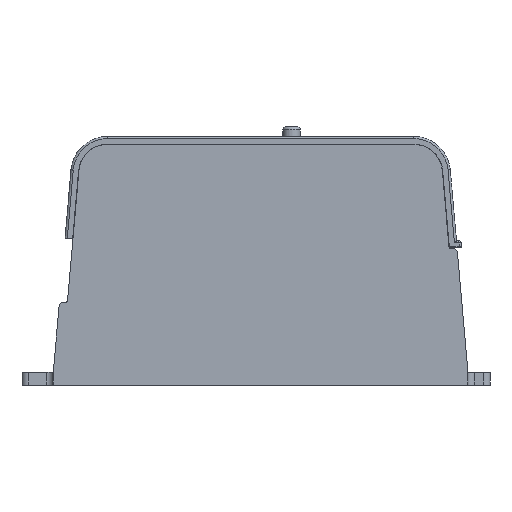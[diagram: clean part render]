
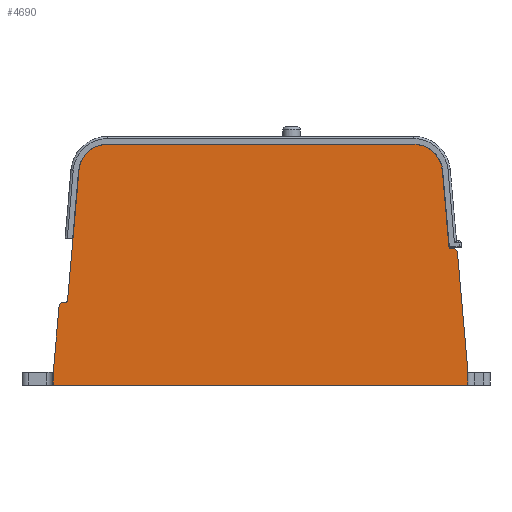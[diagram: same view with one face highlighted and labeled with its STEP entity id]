
A CAD part, front view. The second image highlights one B-rep face of the part: STEP entity #4690.
In plain terms, the highlighted planar face has unit normal (0, -1, 0).
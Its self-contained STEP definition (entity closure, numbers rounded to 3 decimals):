
#116=LINE('',#7055,#578);
#138=LINE('',#7140,#600);
#139=LINE('',#7145,#601);
#140=LINE('',#7149,#602);
#141=LINE('',#7153,#603);
#142=LINE('',#7157,#604);
#143=LINE('',#7161,#605);
#144=LINE('',#7165,#606);
#145=LINE('',#7167,#607);
#146=LINE('',#7168,#608);
#578=VECTOR('',#5621,1000.);
#600=VECTOR('',#5687,1000.);
#601=VECTOR('',#5690,1000.);
#602=VECTOR('',#5693,1000.);
#603=VECTOR('',#5696,1000.);
#604=VECTOR('',#5699,1000.);
#605=VECTOR('',#5702,1000.);
#606=VECTOR('',#5705,1000.);
#607=VECTOR('',#5706,1000.);
#608=VECTOR('',#5707,1000.);
#1256=ORIENTED_EDGE('',*,*,#2576,.T.);
#1257=ORIENTED_EDGE('',*,*,#2577,.T.);
#1258=ORIENTED_EDGE('',*,*,#2578,.T.);
#1259=ORIENTED_EDGE('',*,*,#2579,.T.);
#1260=ORIENTED_EDGE('',*,*,#2580,.T.);
#1261=ORIENTED_EDGE('',*,*,#2581,.T.);
#1262=ORIENTED_EDGE('',*,*,#2582,.F.);
#1263=ORIENTED_EDGE('',*,*,#2583,.T.);
#1264=ORIENTED_EDGE('',*,*,#2584,.T.);
#1265=ORIENTED_EDGE('',*,*,#2585,.T.);
#1266=ORIENTED_EDGE('',*,*,#2586,.T.);
#1267=ORIENTED_EDGE('',*,*,#2587,.T.);
#1268=ORIENTED_EDGE('',*,*,#2588,.F.);
#1269=ORIENTED_EDGE('',*,*,#2589,.F.);
#1270=ORIENTED_EDGE('',*,*,#2534,.F.);
#1271=ORIENTED_EDGE('',*,*,#2590,.F.);
#2534=EDGE_CURVE('',#3205,#3206,#116,.T.);
#2576=EDGE_CURVE('',#3247,#3248,#138,.T.);
#2577=EDGE_CURVE('',#3248,#3249,#3652,.F.);
#2578=EDGE_CURVE('',#3249,#3250,#139,.T.);
#2579=EDGE_CURVE('',#3250,#3251,#3653,.T.);
#2580=EDGE_CURVE('',#3251,#3252,#140,.T.);
#2581=EDGE_CURVE('',#3252,#3253,#3654,.F.);
#2582=EDGE_CURVE('',#3254,#3253,#141,.T.);
#2583=EDGE_CURVE('',#3254,#3255,#3655,.F.);
#2584=EDGE_CURVE('',#3255,#3256,#142,.T.);
#2585=EDGE_CURVE('',#3256,#3257,#3656,.T.);
#2586=EDGE_CURVE('',#3257,#3258,#143,.T.);
#2587=EDGE_CURVE('',#3258,#3259,#3657,.F.);
#2588=EDGE_CURVE('',#3260,#3259,#144,.T.);
#2589=EDGE_CURVE('',#3206,#3260,#145,.T.);
#2590=EDGE_CURVE('',#3247,#3205,#146,.T.);
#3205=VERTEX_POINT('',#7054);
#3206=VERTEX_POINT('',#7056);
#3247=VERTEX_POINT('',#7141);
#3248=VERTEX_POINT('',#7142);
#3249=VERTEX_POINT('',#7144);
#3250=VERTEX_POINT('',#7146);
#3251=VERTEX_POINT('',#7148);
#3252=VERTEX_POINT('',#7150);
#3253=VERTEX_POINT('',#7152);
#3254=VERTEX_POINT('',#7154);
#3255=VERTEX_POINT('',#7156);
#3256=VERTEX_POINT('',#7158);
#3257=VERTEX_POINT('',#7160);
#3258=VERTEX_POINT('',#7162);
#3259=VERTEX_POINT('',#7164);
#3260=VERTEX_POINT('',#7166);
#3652=CIRCLE('',#5055,1.5);
#3653=CIRCLE('',#5056,0.5);
#3654=CIRCLE('',#5057,9.);
#3655=CIRCLE('',#5058,9.);
#3656=CIRCLE('',#5059,0.5);
#3657=CIRCLE('',#5060,1.5);
#3860=EDGE_LOOP('',(#1256,#1257,#1258,#1259,#1260,#1261,#1262,#1263,#1264,
#1265,#1266,#1267,#1268,#1269,#1270,#1271));
#4200=FACE_BOUND('',#3860,.T.);
#4516=PLANE('',#5054);
#4690=ADVANCED_FACE('',(#4200),#4516,.F.);
#5054=AXIS2_PLACEMENT_3D('',#7139,#5685,#5686);
#5055=AXIS2_PLACEMENT_3D('',#7143,#5688,#5689);
#5056=AXIS2_PLACEMENT_3D('',#7147,#5691,#5692);
#5057=AXIS2_PLACEMENT_3D('',#7151,#5694,#5695);
#5058=AXIS2_PLACEMENT_3D('',#7155,#5697,#5698);
#5059=AXIS2_PLACEMENT_3D('',#7159,#5700,#5701);
#5060=AXIS2_PLACEMENT_3D('',#7163,#5703,#5704);
#5621=DIRECTION('',(-1.,0.,0.));
#5685=DIRECTION('',(0.,1.,0.));
#5686=DIRECTION('',(0.,0.,1.));
#5687=DIRECTION('',(-0.087,0.,0.996));
#5688=DIRECTION('',(0.,1.,0.));
#5689=DIRECTION('',(0.,0.,1.));
#5690=DIRECTION('',(-1.,0.,0.));
#5691=DIRECTION('',(0.,1.,0.));
#5692=DIRECTION('',(0.,0.,1.));
#5693=DIRECTION('',(-0.087,0.,0.996));
#5694=DIRECTION('',(0.,1.,0.));
#5695=DIRECTION('',(0.,0.,1.));
#5696=DIRECTION('',(1.,0.,0.));
#5697=DIRECTION('',(0.,1.,0.));
#5698=DIRECTION('',(0.,0.,1.));
#5699=DIRECTION('',(-0.087,0.,-0.996));
#5700=DIRECTION('',(0.,1.,0.));
#5701=DIRECTION('',(0.,0.,1.));
#5702=DIRECTION('',(-1.,0.,0.));
#5703=DIRECTION('',(0.,1.,0.));
#5704=DIRECTION('',(0.,0.,1.));
#5705=DIRECTION('',(0.087,0.,0.996));
#5706=DIRECTION('',(0.,0.,1.));
#5707=DIRECTION('',(0.,0.,-1.));
#7054=CARTESIAN_POINT('',(65.,0.,-37.75));
#7055=CARTESIAN_POINT('',(65.,0.,-37.75));
#7056=CARTESIAN_POINT('',(-65.,0.,-37.75));
#7139=CARTESIAN_POINT('',(0.,0.,0.));
#7140=CARTESIAN_POINT('',(61.576,0.,5.387));
#7141=CARTESIAN_POINT('',(65.,0.,-33.75));
#7142=CARTESIAN_POINT('',(61.725,0.,3.681));
#7143=CARTESIAN_POINT('',(60.231,0.,3.55));
#7144=CARTESIAN_POINT('',(60.231,0.,5.05));
#7145=CARTESIAN_POINT('',(0.,0.,5.05));
#7146=CARTESIAN_POINT('',(59.554,0.,5.05));
#7147=CARTESIAN_POINT('',(59.554,0.,5.55));
#7148=CARTESIAN_POINT('',(59.056,0.,5.506));
#7149=CARTESIAN_POINT('',(59.085,0.,5.169));
#7150=CARTESIAN_POINT('',(56.954,0.,29.534));
#7151=CARTESIAN_POINT('',(47.988,0.,28.75));
#7152=CARTESIAN_POINT('',(47.988,0.,37.75));
#7153=CARTESIAN_POINT('',(-65.,0.,37.75));
#7154=CARTESIAN_POINT('',(-47.988,0.,37.75));
#7155=CARTESIAN_POINT('',(-47.988,0.,28.75));
#7156=CARTESIAN_POINT('',(-56.954,0.,29.534));
#7157=CARTESIAN_POINT('',(-59.085,0.,5.169));
#7158=CARTESIAN_POINT('',(-60.526,0.,-11.294));
#7159=CARTESIAN_POINT('',(-61.024,0.,-11.25));
#7160=CARTESIAN_POINT('',(-61.024,0.,-11.75));
#7161=CARTESIAN_POINT('',(0.,0.,-11.75));
#7162=CARTESIAN_POINT('',(-61.701,0.,-11.75));
#7163=CARTESIAN_POINT('',(-61.701,0.,-13.25));
#7164=CARTESIAN_POINT('',(-63.195,0.,-13.119));
#7165=CARTESIAN_POINT('',(-61.576,0.,5.387));
#7166=CARTESIAN_POINT('',(-65.,0.,-33.75));
#7167=CARTESIAN_POINT('',(-65.,0.,-37.75));
#7168=CARTESIAN_POINT('',(65.,0.,37.75));
